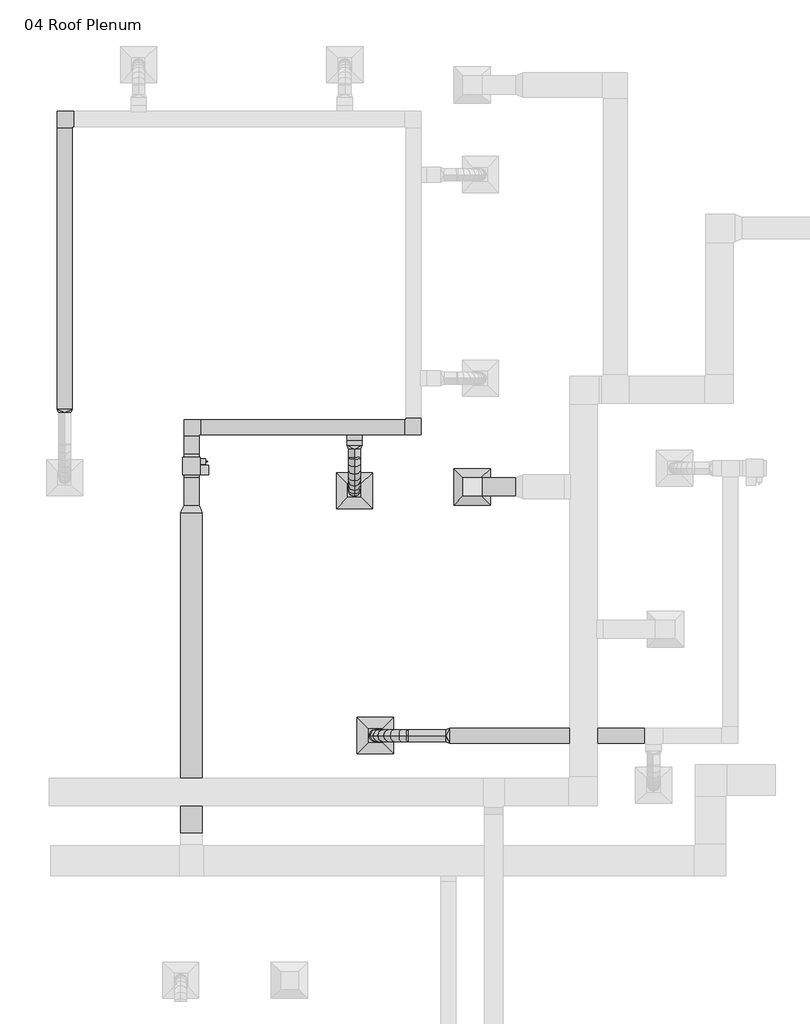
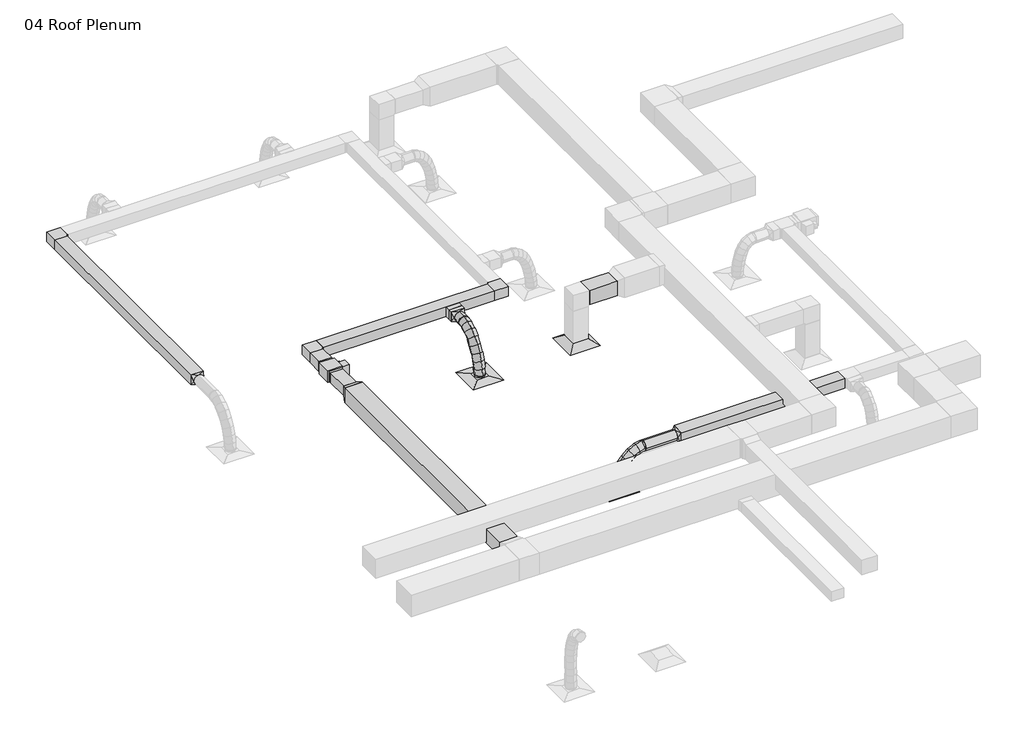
# One storey, part 3 of 9: 12 duct segments, 8 duct fittings, 3 air terminals, 1 proxy.
"""IFC4 building model written with IfcOpenShell, lengths in millimetres."""

from ifc_helpers import new_model, si_unit, point, frame, frame_2d, origin, place, context, project, spatial, polyline, circle_curve, ellipse_curve, trimmed, segment, composite_curve, outline, extrude, transform, mapped, element, save
from ifc_brep_helpers import plane_surface, cylinder_surface, advanced_brep
from components import return_diffuser_d30_returndiffuser_24x24_12x12_connection_ff543d60, supply_diffuser_rectangular_face_round_neck_d30_6390248a, bcn6785_vav_d30_vav1_8c327968, rectangular_elbow_mitered_standard_f09b78ec, rectangular_takeoff_standard_c54ab2d1, rectangular_transition_angle_45_degree_183635ce, rectangular_to_round_transition_angle_45_degree_e9430680

model = new_model("IFC4")

# Units and contexts
model_context = context("Model", 3, world=origin())
ifc_project = project(units=[si_unit("LENGTHUNIT", "METRE", prefix="MILLI")], contexts=[model_context])

# Site, building, storey
site = spatial("IfcSite", under=ifc_project)
building = spatial("IfcBuilding", under=site)
storey = spatial("IfcBuildingStorey", under=building, Name="04 Roof Plenum", Elevation=12192.0)

# Air terminals
placement = place(None, origin())
return_diffuser_d30_returndiffuser_24x24_12x12_connection_shape = return_diffuser_d30_returndiffuser_24x24_12x12_connection_ff543d60(model_context)
element("IfcAirTerminal", 1, ObjectType="Return Diffuser : D30_ReturnDiffuser_24x24 12x12 Connection", at=placement, inside=storey, context=model_context, shape_type="MappedRepresentation", body=[
    mapped(return_diffuser_d30_returndiffuser_24x24_12x12_connection_shape, transform((-9849.7375216, 4928.6505887, 12192.0), x_axis=(1.0, 0.0, 0.0), y_axis=(0.0, 1.0, 0.0), z_axis=(0.0, 0.0, 1.0))),
])
supply_diffuser_rectangular_face_round_neck_d30_shape = supply_diffuser_rectangular_face_round_neck_d30_6390248a(model_context)
element("IfcAirTerminal", 2, ObjectType="Supply Diffuser - Rectangular Face Round Neck : D30_SupplyDiffuser_24x24 8 Neck", at=placement, inside=storey, context=model_context, shape_type="MappedRepresentation", body=[
    mapped(supply_diffuser_rectangular_face_round_neck_d30_shape, transform((-11479.934212, 747.3140793, 12192.0), x_axis=(1.0, 0.0, 0.0), y_axis=(0.0, 1.0, 0.0), z_axis=(0.0, 0.0, 1.0))),
])
element("IfcAirTerminal", 3, ObjectType="Supply Diffuser - Rectangular Face Round Neck : D30_SupplyDiffuser_24x24 8 Neck", at=placement, inside=storey, context=model_context, shape_type="MappedRepresentation", body=[
    mapped(supply_diffuser_rectangular_face_round_neck_d30_shape, transform((-11828.9071895, 4864.6921675, 12192.0), x_axis=(1.0, 0.0, 0.0), y_axis=(0.0, 1.0, 0.0), z_axis=(0.0, 0.0, 1.0))),
])

# Proxy
bcn6785_vav_d30_vav1_shape = bcn6785_vav_d30_vav1_8c327968(model_context)
element("IfcBuildingElementProxy", 4, Name="BCN6785_VAV : D30_VAV1", ObjectType="BCN6785_VAV : D30_VAV1", at=placement, inside=storey, context=model_context, shape_type="MappedRepresentation", body=[
    mapped(bcn6785_vav_d30_vav1_shape, transform((-14571.5723705, 5131.3921675, 12909.55), x_axis=(0.0, 1.0, 0.0), y_axis=(-1.0, 0.0, 0.0), z_axis=(0.0, 0.0, 1.0))),
])

# Duct fittings
rectangular_elbow_mitered_standard_shape = rectangular_elbow_mitered_standard_f09b78ec(model_context)
element("IfcDuctFitting", 5, ObjectType="Rectangular Elbow - Mitered : Standard", at=placement, inside=storey, context=model_context, shape_type="MappedRepresentation", body=[
    mapped(rectangular_elbow_mitered_standard_shape, transform((-14571.5723705, 5931.4921675, 13030.2), x_axis=(-1.0, 0.0, 0.0), y_axis=(0.0, -1.0, 0.0), z_axis=(0.0, 0.0, 1.0))),
])
element("IfcDuctFitting", 6, ObjectType="Rectangular Elbow - Mitered : Standard", at=placement, inside=storey, context=model_context, shape_type="MappedRepresentation", body=[
    mapped(rectangular_elbow_mitered_standard_shape, transform((-10837.7723705, 5931.4921675, 13030.2), x_axis=(1.0, 0.0, 0.0), y_axis=(0.0, 1.0, 0.0), z_axis=(0.0, 0.0, 1.0))),
])
element("IfcDuctFitting", 7, ObjectType="Rectangular Elbow - Mitered : Standard", at=placement, inside=storey, context=model_context, shape_type="MappedRepresentation", body=[
    mapped(rectangular_elbow_mitered_standard_shape, transform((-16705.1723705, 11113.0921675, 13030.2), x_axis=(-1.0, 0.0, 0.0), y_axis=(0.0, -1.0, 0.0), z_axis=(0.0, 0.0, 1.0))),
])
rectangular_takeoff_standard_shape = rectangular_takeoff_standard_c54ab2d1(model_context)
element("IfcDuctFitting", 8, ObjectType="Rectangular Takeoff : Standard", at=placement, inside=storey, context=model_context, shape_type="MappedRepresentation", body=[
    mapped(rectangular_takeoff_standard_shape, transform((-11828.9071895, 5804.4921675, 13030.2), x_axis=(0.0, -1.0, 0.0), y_axis=(-1.0, 0.0, 0.0), z_axis=(0.0, 0.0, -1.0))),
])
rectangular_transition_angle_45_degree_shape = rectangular_transition_angle_45_degree_183635ce(model_context)
element("IfcDuctFitting", 9, ObjectType="Rectangular Transition - Angle : 45 Degree", at=placement, inside=storey, context=model_context, shape_type="MappedRepresentation", body=[
    mapped(rectangular_transition_angle_45_degree_shape, transform((-14571.5723705, 4497.4809317, 13030.2), x_axis=(0.0, 1.0, 0.0), y_axis=(-1.0, 0.0, 0.0), z_axis=(0.0, 0.0, 1.0))),
])
rectangular_to_round_transition_angle_45_degree_shape = rectangular_to_round_transition_angle_45_degree_e9430680(model_context)
element("IfcDuctFitting", 10, ObjectType="Rectangular to Round Transition - Angle : 45 Degree", at=placement, inside=storey, context=model_context, shape_type="MappedRepresentation", body=[
    mapped(rectangular_to_round_transition_angle_45_degree_shape, transform((-10232.3178172, 747.3140793, 12903.2), x_axis=(-1.0, 0.0, 0.0), y_axis=(0.0, -1.0, 0.0), z_axis=(0.0, 0.0, 1.0))),
])
element("IfcDuctFitting", 11, ObjectType="Rectangular to Round Transition - Angle : 45 Degree", at=placement, inside=storey, context=model_context, shape_type="MappedRepresentation", body=[
    mapped(rectangular_to_round_transition_angle_45_degree_shape, transform((-11828.9071895, 5626.6921675, 13030.2), x_axis=(0.0, -1.0, 0.0), y_axis=(1.0, 0.0, 0.0), z_axis=(0.0, 0.0, 1.0))),
])
element("IfcDuctFitting", 12, ObjectType="Rectangular to Round Transition - Angle : 45 Degree", at=placement, inside=storey, context=model_context, shape_type="MappedRepresentation", body=[
    mapped(rectangular_to_round_transition_angle_45_degree_shape, transform((-16705.1723705, 6236.2921675, 13030.2), x_axis=(0.0, -1.0, 0.0), y_axis=(1.0, 0.0, 0.0), z_axis=(0.0, 0.0, 1.0))),
])

# Duct segments
element("IfcDuctSegment", 13, ObjectType="Flex - Round", at=placement, inside=storey, context=model_context, shape_type="AdvancedBrep", body=[
    advanced_brep(
    [(-10928.6388417, 645.7140793, 12903.2), (-10928.6388417, 747.3140793, 12801.6), (-10928.6388417, 848.9140793, 12903.2), (-10928.6388417, 747.3140793, 13004.8), (-10946.3941775, 645.7140793, 12903.2), (-10935.9328341, 747.3140793, 12801.6), (-10946.3941775, 848.9140793, 12903.2), (-10956.855521, 747.3140793, 13004.8), (-11479.934212, 645.7140793, 12245.975), (-11581.534212, 747.3140793, 12245.975), (-11479.934212, 848.9140793, 12245.975), (-11378.334212, 747.3140793, 12245.975), (-11049.2116422, 645.7140793, 12881.7997126), (-11014.879517, 747.3140793, 12785.1681447), (-11049.2116422, 848.9140793, 12881.7997126), (-11083.5437673, 747.3140793, 12978.4312805), (-11162.9815687, 645.7140793, 12822.9238719), (-11105.7246373, 747.3140793, 12738.1558719), (-11162.9815687, 848.9140793, 12822.9238719), (-11220.2385001, 747.3140793, 12907.691872), (-11265.6670818, 645.7140793, 12734.5600103), (-11192.1102582, 747.3140793, 12663.8185401), (-11265.6670818, 848.9140793, 12734.5600103), (-11339.2239055, 747.3140793, 12805.3014805), (-11352.9866422, 645.7140793, 12624.69566), (-11268.0665718, 747.3140793, 12568.251281), (-11352.9866422, 848.9140793, 12624.69566), (-11437.9067125, 747.3140793, 12681.140039), (-11420.6587102, 645.7140793, 12501.3183533), (-11327.3039744, 747.3140793, 12460.2517563), (-11420.6587102, 848.9140793, 12501.3183533), (-11514.0134461, 747.3140793, 12542.3849503), (-11464.4017467, 645.7140793, 12372.4156226), (-11365.0498601, 747.3140793, 12349.0215322), (-11464.4017467, 848.9140793, 12372.4156226), (-11563.7536332, 747.3140793, 12395.8097129), (-11479.934212, 645.7140793, 12258.3628251), (-11378.334212, 747.3140793, 12251.4763286), (-11479.934212, 848.9140793, 12258.3628251), (-11581.534212, 747.3140793, 12265.2493216)],
    [
        (0, 1, circle_curve(frame((-10928.6388417, 747.3140793, 12903.2), z_axis=(1.0, 0.0, 0.0), x_axis=(0.0, -1.0, 0.0)), 101.6)),
        (1, 2, circle_curve(frame((-10928.6388417, 747.3140793, 12903.2), z_axis=(1.0, 0.0, 0.0), x_axis=(0.0, -1.0, 0.0)), 101.6)),
        (2, 3, circle_curve(frame((-10928.6388417, 747.3140793, 12903.2), z_axis=(1.0, 0.0, 0.0), x_axis=(0.0, -1.0, 0.0)), 101.6)),
        (3, 0, circle_curve(frame((-10928.6388417, 747.3140793, 12903.2), z_axis=(1.0, 0.0, 0.0), x_axis=(0.0, -1.0, 0.0)), 101.6)),
        (0, 4),
        (4, 5, ellipse_curve(frame((-10946.3941775, 747.3140793, 12903.2), z_axis=(0.9947407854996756, 0.0, 0.10242445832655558), x_axis=(0.10242445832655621, 0.0, -0.9947407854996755)), 102.1371612, 101.6)),
        (5, 1),
        (5, 6, ellipse_curve(frame((-10946.3941775, 747.3140793, 12903.2), z_axis=(0.9947407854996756, 0.0, 0.10242445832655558), x_axis=(0.10242445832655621, 0.0, -0.9947407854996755)), 102.1371612, 101.6)),
        (6, 2),
        (6, 7, ellipse_curve(frame((-10946.3941775, 747.3140793, 12903.2), z_axis=(0.9947407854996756, 0.0, 0.10242445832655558), x_axis=(0.10242445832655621, 0.0, -0.9947407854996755)), 102.1371612, 101.6)),
        (7, 3),
        (7, 4, ellipse_curve(frame((-10946.3941775, 747.3140793, 12903.2), z_axis=(0.9947407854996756, 0.0, 0.10242445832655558), x_axis=(0.10242445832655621, 0.0, -0.9947407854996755)), 102.1371612, 101.6)),
        (8, 9, circle_curve(frame((-11479.934212, 747.3140793, 12245.975), z_axis=(0.0, 0.0, -1.0), x_axis=(0.0, -1.0, 0.0)), 101.6)),
        (9, 10, circle_curve(frame((-11479.934212, 747.3140793, 12245.975), z_axis=(0.0, 0.0, -1.0), x_axis=(0.0, -1.0, 0.0)), 101.6)),
        (10, 11, circle_curve(frame((-11479.934212, 747.3140793, 12245.975), z_axis=(0.0, 0.0, -1.0), x_axis=(0.0, -1.0, 0.0)), 101.6)),
        (11, 8, circle_curve(frame((-11479.934212, 747.3140793, 12245.975), z_axis=(0.0, 0.0, -1.0), x_axis=(0.0, -1.0, 0.0)), 101.6)),
        (4, 12),
        (12, 13, ellipse_curve(frame((-11049.2116422, 747.3140793, 12881.7997126), z_axis=(0.9422939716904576, 0.0, 0.3347866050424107), x_axis=(0.33478660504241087, 0.0, -0.9422939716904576)), 102.5492796, 101.6)),
        (13, 5),
        (13, 14, ellipse_curve(frame((-11049.2116422, 747.3140793, 12881.7997126), z_axis=(0.9422939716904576, 0.0, 0.3347866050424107), x_axis=(0.33478660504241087, 0.0, -0.9422939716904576)), 102.5492796, 101.6)),
        (14, 6),
        (14, 15, ellipse_curve(frame((-11049.2116422, 747.3140793, 12881.7997126), z_axis=(0.9422939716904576, 0.0, 0.3347866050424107), x_axis=(0.33478660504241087, 0.0, -0.9422939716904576)), 102.5492796, 101.6)),
        (15, 7),
        (15, 12, ellipse_curve(frame((-11049.2116422, 747.3140793, 12881.7997126), z_axis=(0.9422939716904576, 0.0, 0.3347866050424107), x_axis=(0.33478660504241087, 0.0, -0.9422939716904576)), 102.5492796, 101.6)),
        (12, 16),
        (16, 17, ellipse_curve(frame((-11162.9815687, 747.3140793, 12822.9238719), z_axis=(0.8286739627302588, 0.0, 0.5597315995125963), x_axis=(0.559731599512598, 0.0, -0.8286739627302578)), 102.2935484, 101.6)),
        (17, 13),
        (17, 18, ellipse_curve(frame((-11162.9815687, 747.3140793, 12822.9238719), z_axis=(0.8286739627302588, 0.0, 0.5597315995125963), x_axis=(0.559731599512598, 0.0, -0.8286739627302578)), 102.2935484, 101.6)),
        (18, 14),
        (18, 19, ellipse_curve(frame((-11162.9815687, 747.3140793, 12822.9238719), z_axis=(0.8286739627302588, 0.0, 0.5597315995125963), x_axis=(0.559731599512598, 0.0, -0.8286739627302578)), 102.2935484, 101.6)),
        (19, 15),
        (19, 16, ellipse_curve(frame((-11162.9815687, 747.3140793, 12822.9238719), z_axis=(0.8286739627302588, 0.0, 0.5597315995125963), x_axis=(0.559731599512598, 0.0, -0.8286739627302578)), 102.2935484, 101.6)),
        (16, 20),
        (20, 21, ellipse_curve(frame((-11265.6670818, 747.3140793, 12734.5600103), z_axis=(0.6931787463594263, 0.0, 0.7207657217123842), x_axis=(0.7207657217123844, 0.0, -0.6931787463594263)), 102.0537207, 101.6)),
        (21, 17),
        (21, 22, ellipse_curve(frame((-11265.6670818, 747.3140793, 12734.5600103), z_axis=(0.6931787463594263, 0.0, 0.7207657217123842), x_axis=(0.7207657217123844, 0.0, -0.6931787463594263)), 102.0537207, 101.6)),
        (22, 18),
        (22, 23, ellipse_curve(frame((-11265.6670818, 747.3140793, 12734.5600103), z_axis=(0.6931787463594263, 0.0, 0.7207657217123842), x_axis=(0.7207657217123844, 0.0, -0.6931787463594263)), 102.0537207, 101.6)),
        (23, 19),
        (23, 20, ellipse_curve(frame((-11265.6670818, 747.3140793, 12734.5600103), z_axis=(0.6931787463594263, 0.0, 0.7207657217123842), x_axis=(0.7207657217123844, 0.0, -0.6931787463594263)), 102.0537207, 101.6)),
        (20, 24),
        (24, 25, ellipse_curve(frame((-11352.9866422, 747.3140793, 12624.69566), z_axis=(0.5535522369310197, 0.0, 0.8328144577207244), x_axis=(0.8328144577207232, 0.0, -0.5535522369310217)), 101.9675746, 101.6)),
        (25, 21),
        (25, 26, ellipse_curve(frame((-11352.9866422, 747.3140793, 12624.69566), z_axis=(0.5535522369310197, 0.0, 0.8328144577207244), x_axis=(0.8328144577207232, 0.0, -0.5535522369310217)), 101.9675746, 101.6)),
        (26, 22),
        (26, 27, ellipse_curve(frame((-11352.9866422, 747.3140793, 12624.69566), z_axis=(0.5535522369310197, 0.0, 0.8328144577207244), x_axis=(0.8328144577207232, 0.0, -0.5535522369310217)), 101.9675746, 101.6)),
        (27, 23),
        (27, 24, ellipse_curve(frame((-11352.9866422, 747.3140793, 12624.69566), z_axis=(0.5535522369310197, 0.0, 0.8328144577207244), x_axis=(0.8328144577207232, 0.0, -0.5535522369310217)), 101.9675746, 101.6)),
        (24, 28),
        (28, 29, ellipse_curve(frame((-11420.6587102, 747.3140793, 12501.3183533), z_axis=(0.40266068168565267, 0.0, 0.9153493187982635), x_axis=(0.9153493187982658, 0.0, -0.402660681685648)), 101.9880978, 101.6)),
        (29, 25),
        (29, 30, ellipse_curve(frame((-11420.6587102, 747.3140793, 12501.3183533), z_axis=(0.40266068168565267, 0.0, 0.9153493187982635), x_axis=(0.9153493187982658, 0.0, -0.402660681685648)), 101.9880978, 101.6)),
        (30, 26),
        (30, 31, ellipse_curve(frame((-11420.6587102, 747.3140793, 12501.3183533), z_axis=(0.40266068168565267, 0.0, 0.9153493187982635), x_axis=(0.9153493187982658, 0.0, -0.402660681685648)), 101.9880978, 101.6)),
        (31, 27),
        (31, 28, ellipse_curve(frame((-11420.6587102, 747.3140793, 12501.3183533), z_axis=(0.40266068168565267, 0.0, 0.9153493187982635), x_axis=(0.9153493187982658, 0.0, -0.402660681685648)), 101.9880978, 101.6)),
        (28, 32),
        (32, 33, ellipse_curve(frame((-11464.4017467, 747.3140793, 12372.4156226), z_axis=(0.2291987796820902, 0.0, 0.9733796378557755), x_axis=(0.9733796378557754, 0.0, -0.229198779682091)), 102.0690003, 101.6)),
        (33, 29),
        (33, 34, ellipse_curve(frame((-11464.4017467, 747.3140793, 12372.4156226), z_axis=(0.2291987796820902, 0.0, 0.9733796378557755), x_axis=(0.9733796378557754, 0.0, -0.229198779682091)), 102.0690003, 101.6)),
        (34, 30),
        (34, 35, ellipse_curve(frame((-11464.4017467, 747.3140793, 12372.4156226), z_axis=(0.2291987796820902, 0.0, 0.9733796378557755), x_axis=(0.9733796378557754, 0.0, -0.229198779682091)), 102.0690003, 101.6)),
        (35, 31),
        (35, 32, ellipse_curve(frame((-11464.4017467, 747.3140793, 12372.4156226), z_axis=(0.2291987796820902, 0.0, 0.9733796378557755), x_axis=(0.9733796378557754, 0.0, -0.229198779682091)), 102.0690003, 101.6)),
        (32, 36),
        (36, 37, ellipse_curve(frame((-11479.934212, 747.3140793, 12258.3628251), z_axis=(0.0676253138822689, 0.0, 0.997710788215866), x_axis=(0.9977107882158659, 0.0, -0.06762531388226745)), 101.8331176, 101.6)),
        (37, 33),
        (37, 38, ellipse_curve(frame((-11479.934212, 747.3140793, 12258.3628251), z_axis=(0.0676253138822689, 0.0, 0.997710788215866), x_axis=(0.9977107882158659, 0.0, -0.06762531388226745)), 101.8331176, 101.6)),
        (38, 34),
        (38, 39, ellipse_curve(frame((-11479.934212, 747.3140793, 12258.3628251), z_axis=(0.0676253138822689, 0.0, 0.997710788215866), x_axis=(0.9977107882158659, 0.0, -0.06762531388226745)), 101.8331176, 101.6)),
        (39, 35),
        (39, 36, ellipse_curve(frame((-11479.934212, 747.3140793, 12258.3628251), z_axis=(0.0676253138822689, 0.0, 0.997710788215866), x_axis=(0.9977107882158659, 0.0, -0.06762531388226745)), 101.8331176, 101.6)),
        (36, 8),
        (11, 37),
        (10, 38),
        (9, 39),
    ],
    [
        plane_surface(frame((-10928.6388417, 747.3140793, 12801.6), z_axis=(1.0, 0.0, 0.0), x_axis=(0.0, -1.0, 0.0))),
        cylinder_surface(frame((-10928.6388417, 747.3140793, 12903.2), z_axis=(1.0, 0.0, 0.0), x_axis=(0.0, -1.0, 0.0)), 101.6),
        plane_surface(frame((-11479.934212, 645.7140793, 12245.975), z_axis=(0.0, 0.0, -1.0), x_axis=(-1.0, 0.0, 0.0))),
        cylinder_surface(frame((-10946.3941775, 747.3140793, 12903.2), z_axis=(0.9790184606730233, 0.0, 0.2037715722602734), x_axis=(0.0, -1.0, 0.0)), 101.6),
        cylinder_surface(frame((-11049.2116422, 747.3140793, 12881.7997126), z_axis=(0.888124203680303, 0.0, 0.4596035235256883), x_axis=(0.0, -1.0, 0.0)), 101.6),
        cylinder_surface(frame((-11162.9815687, 747.3140793, 12822.9238719), z_axis=(0.7579869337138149, 0.0, 0.6522697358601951), x_axis=(0.0, -1.0, 0.0)), 101.6),
        cylinder_surface(frame((-11265.6670818, 747.3140793, 12734.5600103), z_axis=(0.6222069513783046, 0.0, 0.7828528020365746), x_axis=(0.0, -1.0, 0.0)), 101.6),
        cylinder_surface(frame((-11352.9866422, 747.3140793, 12624.69566), z_axis=(0.4809066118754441, 0.0, 0.8767718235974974), x_axis=(0.0, -1.0, 0.0)), 101.6),
        cylinder_surface(frame((-11420.6587102, 747.3140793, 12501.3183533), z_axis=(0.3213502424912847, 0.0, 0.9469604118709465), x_axis=(0.0, -1.0, 0.0)), 101.6),
        cylinder_surface(frame((-11464.4017467, 747.3140793, 12372.4156226), z_axis=(0.13494101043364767, 0.0, 0.9908536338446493), x_axis=(0.0, -1.0, 0.0)), 101.6),
        cylinder_surface(frame((-11479.934212, 747.3140793, 12258.3628251), z_axis=(0.0, 0.0, 1.0), x_axis=(0.0, -1.0, 0.0)), 101.6),
    ],
    [
        (0, [[1, 2, 3, 4]]),
        (1, [[-1, 5, 6, 7]]),
        (1, [[-2, -7, 8, 9]]),
        (1, [[-3, -9, 10, 11]]),
        (1, [[-4, -11, 12, -5]]),
        (2, [[13, 14, 15, 16]]),
        (3, [[-6, 17, 18, 19]]),
        (3, [[-8, -19, 20, 21]]),
        (3, [[-10, -21, 22, 23]]),
        (3, [[-12, -23, 24, -17]]),
        (4, [[-18, 25, 26, 27]]),
        (4, [[-20, -27, 28, 29]]),
        (4, [[-22, -29, 30, 31]]),
        (4, [[-24, -31, 32, -25]]),
        (5, [[-26, 33, 34, 35]]),
        (5, [[-28, -35, 36, 37]]),
        (5, [[-30, -37, 38, 39]]),
        (5, [[-32, -39, 40, -33]]),
        (6, [[-34, 41, 42, 43]]),
        (6, [[-36, -43, 44, 45]]),
        (6, [[-38, -45, 46, 47]]),
        (6, [[-40, -47, 48, -41]]),
        (7, [[-42, 49, 50, 51]]),
        (7, [[-44, -51, 52, 53]]),
        (7, [[-46, -53, 54, 55]]),
        (7, [[-48, -55, 56, -49]]),
        (8, [[-50, 57, 58, 59]]),
        (8, [[-52, -59, 60, 61]]),
        (8, [[-54, -61, 62, 63]]),
        (8, [[-56, -63, 64, -57]]),
        (9, [[-58, 65, 66, 67]]),
        (9, [[-60, -67, 68, 69]]),
        (9, [[-62, -69, 70, 71]]),
        (9, [[-64, -71, 72, -65]]),
        (10, [[-66, 73, -16, 74]]),
        (10, [[-68, -74, -15, 75]]),
        (10, [[-70, -75, -14, 76]]),
        (10, [[-72, -76, -13, -73]]),
    ],
),
])
element("IfcDuctSegment", 14, ObjectType="Flex - Round", at=placement, inside=storey, context=model_context, shape_type="AdvancedBrep", body=[
    advanced_brep(
    [(-11727.3071895, 5423.4921675, 13030.2), (-11828.9071895, 5423.4921675, 12928.6), (-11930.5071895, 5423.4921675, 13030.2), (-11828.9071895, 5423.4921675, 13131.8), (-11727.3071895, 5405.8091377, 13030.2), (-11828.9071895, 5416.287151, 12928.6), (-11930.5071895, 5405.8091377, 13030.2), (-11828.9071895, 5395.3311245, 13131.8), (-11727.3071895, 4864.6921675, 12245.975), (-11828.9071895, 4763.0921675, 12245.975), (-11930.5071895, 4864.6921675, 12245.975), (-11828.9071895, 4966.2921675, 12245.975), (-11727.3071895, 5307.3242244, 13009.6681185), (-11828.9071895, 5342.3129637, 12913.1780517), (-11930.5071895, 5307.3242244, 13009.6681185), (-11828.9071895, 5272.3354851, 13106.1581854), (-11727.3071895, 5200.7652919, 12952.8029689), (-11828.9071895, 5259.652247, 12869.0661794), (-11930.5071895, 5200.7652919, 12952.8029689), (-11828.9071895, 5141.8783369, 13036.5397585), (-11727.3071895, 5105.6277138, 12866.7002933), (-11828.9071895, 5180.8851522, 12797.7793362), (-11930.5071895, 5105.6277138, 12866.7002933), (-11828.9071895, 5030.3702754, 12935.6212504), (-11727.3071895, 5023.7238336, 12758.4558338), (-11828.9071895, 5109.3769705, 12703.2738688), (-11930.5071895, 5023.7238336, 12758.4558338), (-11828.9071895, 4938.0706968, 12813.6377988), (-11727.3071895, 4956.8659952, 12635.1653326), (-11828.9071895, 5049.4021789, 12592.6761843), (-11930.5071895, 4956.8659952, 12635.1653326), (-11828.9071895, 4864.3298116, 12677.6544809), (-11727.3071895, 4906.8665423, 12503.9245318), (-11828.9071895, 5004.1848054, 12473.9875996), (-11930.5071895, 4906.8665423, 12503.9245318), (-11828.9071895, 4809.5482792, 12533.861464), (-11727.3071895, 4875.5378185, 12371.8291736), (-11828.9071895, 4976.045744, 12355.3412283), (-11930.5071895, 4875.5378185, 12371.8291736), (-11828.9071895, 4775.0298929, 12388.3171188), (-11727.3071895, 4864.6921675, 12254.6981844), (-11828.9071895, 4966.2921675, 12250.004438), (-11930.5071895, 4864.6921675, 12254.6981844), (-11828.9071895, 4763.0921675, 12259.3919309)],
    [
        (0, 1, circle_curve(frame((-11828.9071895, 5423.4921675, 13030.2), z_axis=(0.0, 1.0, 0.0), x_axis=(1.0, 0.0, 0.0)), 101.6)),
        (1, 2, circle_curve(frame((-11828.9071895, 5423.4921675, 13030.2), z_axis=(0.0, 1.0, 0.0), x_axis=(1.0, 0.0, 0.0)), 101.6)),
        (2, 3, circle_curve(frame((-11828.9071895, 5423.4921675, 13030.2), z_axis=(0.0, 1.0, 0.0), x_axis=(1.0, 0.0, 0.0)), 101.6)),
        (3, 0, circle_curve(frame((-11828.9071895, 5423.4921675, 13030.2), z_axis=(0.0, 1.0, 0.0), x_axis=(1.0, 0.0, 0.0)), 101.6)),
        (0, 4),
        (4, 5, ellipse_curve(frame((-11828.9071895, 5405.8091377, 13030.2), z_axis=(0.0, 0.9947241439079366, 0.10258595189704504), x_axis=(0.0, 0.1025859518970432, -0.9947241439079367)), 102.13887, 101.6)),
        (5, 1),
        (5, 6, ellipse_curve(frame((-11828.9071895, 5405.8091377, 13030.2), z_axis=(0.0, 0.9947241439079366, 0.10258595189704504), x_axis=(0.0, 0.1025859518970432, -0.9947241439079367)), 102.13887, 101.6)),
        (6, 2),
        (6, 7, ellipse_curve(frame((-11828.9071895, 5405.8091377, 13030.2), z_axis=(0.0, 0.9947241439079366, 0.10258595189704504), x_axis=(0.0, 0.1025859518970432, -0.9947241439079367)), 102.13887, 101.6)),
        (7, 3),
        (7, 4, ellipse_curve(frame((-11828.9071895, 5405.8091377, 13030.2), z_axis=(0.0, 0.9947241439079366, 0.10258595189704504), x_axis=(0.0, 0.1025859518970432, -0.9947241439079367)), 102.13887, 101.6)),
        (8, 9, circle_curve(frame((-11828.9071895, 4864.6921675, 12245.975), z_axis=(0.0, 0.0, -1.0), x_axis=(1.0, 0.0, 0.0)), 101.6)),
        (9, 10, circle_curve(frame((-11828.9071895, 4864.6921675, 12245.975), z_axis=(0.0, 0.0, -1.0), x_axis=(1.0, 0.0, 0.0)), 101.6)),
        (10, 11, circle_curve(frame((-11828.9071895, 4864.6921675, 12245.975), z_axis=(0.0, 0.0, -1.0), x_axis=(1.0, 0.0, 0.0)), 101.6)),
        (11, 8, circle_curve(frame((-11828.9071895, 4864.6921675, 12245.975), z_axis=(0.0, 0.0, -1.0), x_axis=(1.0, 0.0, 0.0)), 101.6)),
        (4, 12),
        (12, 13, ellipse_curve(frame((-11828.9071895, 5307.3242244, 13009.6681185), z_axis=(0.0, 0.9401014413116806, 0.3408948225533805), x_axis=(0.0, 0.34089482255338, -0.9401014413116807)), 102.637931, 101.6)),
        (13, 5),
        (13, 14, ellipse_curve(frame((-11828.9071895, 5307.3242244, 13009.6681185), z_axis=(0.0, 0.9401014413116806, 0.3408948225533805), x_axis=(0.0, 0.34089482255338, -0.9401014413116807)), 102.637931, 101.6)),
        (14, 6),
        (14, 15, ellipse_curve(frame((-11828.9071895, 5307.3242244, 13009.6681185), z_axis=(0.0, 0.9401014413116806, 0.3408948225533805), x_axis=(0.0, 0.34089482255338, -0.9401014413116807)), 102.637931, 101.6)),
        (15, 7),
        (15, 12, ellipse_curve(frame((-11828.9071895, 5307.3242244, 13009.6681185), z_axis=(0.0, 0.9401014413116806, 0.3408948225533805), x_axis=(0.0, 0.34089482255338, -0.9401014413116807)), 102.637931, 101.6)),
        (12, 16),
        (16, 17, ellipse_curve(frame((-11828.9071895, 5200.7652919, 12952.8029689), z_axis=(0.0, 0.8179853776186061, 0.5752390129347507), x_axis=(0.0, 0.5752390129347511, -0.8179853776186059)), 102.3695433, 101.6)),
        (17, 13),
        (17, 18, ellipse_curve(frame((-11828.9071895, 5200.7652919, 12952.8029689), z_axis=(0.0, 0.8179853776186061, 0.5752390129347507), x_axis=(0.0, 0.5752390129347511, -0.8179853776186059)), 102.3695433, 101.6)),
        (18, 14),
        (18, 19, ellipse_curve(frame((-11828.9071895, 5200.7652919, 12952.8029689), z_axis=(0.0, 0.8179853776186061, 0.5752390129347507), x_axis=(0.0, 0.5752390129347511, -0.8179853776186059)), 102.3695433, 101.6)),
        (19, 15),
        (19, 16, ellipse_curve(frame((-11828.9071895, 5200.7652919, 12952.8029689), z_axis=(0.0, 0.8179853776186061, 0.5752390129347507), x_axis=(0.0, 0.5752390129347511, -0.8179853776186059)), 102.3695433, 101.6)),
        (16, 20),
        (20, 21, ellipse_curve(frame((-11828.9071895, 5105.6277138, 12866.7002933), z_axis=(0.0, 0.6753782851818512, 0.7374714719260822), x_axis=(0.0, 0.7374714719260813, -0.6753782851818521)), 102.0479317, 101.6)),
        (21, 17),
        (21, 22, ellipse_curve(frame((-11828.9071895, 5105.6277138, 12866.7002933), z_axis=(0.0, 0.6753782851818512, 0.7374714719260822), x_axis=(0.0, 0.7374714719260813, -0.6753782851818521)), 102.0479317, 101.6)),
        (22, 18),
        (22, 23, ellipse_curve(frame((-11828.9071895, 5105.6277138, 12866.7002933), z_axis=(0.0, 0.6753782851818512, 0.7374714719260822), x_axis=(0.0, 0.7374714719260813, -0.6753782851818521)), 102.0479317, 101.6)),
        (23, 19),
        (23, 20, ellipse_curve(frame((-11828.9071895, 5105.6277138, 12866.7002933), z_axis=(0.0, 0.6753782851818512, 0.7374714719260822), x_axis=(0.0, 0.7374714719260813, -0.6753782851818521)), 102.0479317, 101.6)),
        (20, 24),
        (24, 25, ellipse_curve(frame((-11828.9071895, 5023.7238336, 12758.4558338), z_axis=(0.0, 0.5415853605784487, 0.8406457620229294), x_axis=(0.0, 0.8406457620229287, -0.5415853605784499)), 101.8896909, 101.6)),
        (25, 21),
        (25, 26, ellipse_curve(frame((-11828.9071895, 5023.7238336, 12758.4558338), z_axis=(0.0, 0.5415853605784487, 0.8406457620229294), x_axis=(0.0, 0.8406457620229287, -0.5415853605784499)), 101.8896909, 101.6)),
        (26, 22),
        (26, 27, ellipse_curve(frame((-11828.9071895, 5023.7238336, 12758.4558338), z_axis=(0.0, 0.5415853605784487, 0.8406457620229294), x_axis=(0.0, 0.8406457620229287, -0.5415853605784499)), 101.8896909, 101.6)),
        (27, 23),
        (27, 24, ellipse_curve(frame((-11828.9071895, 5023.7238336, 12758.4558338), z_axis=(0.0, 0.5415853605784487, 0.8406457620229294), x_axis=(0.0, 0.8406457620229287, -0.5415853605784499)), 101.8896909, 101.6)),
        (24, 28),
        (28, 29, ellipse_curve(frame((-11828.9071895, 4956.8659952, 12635.1653326), z_axis=(0.0, 0.41727735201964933, 0.9087791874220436), x_axis=(0.0, 0.9087791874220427, -0.41727735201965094)), 101.8247171, 101.6)),
        (29, 25),
        (29, 30, ellipse_curve(frame((-11828.9071895, 4956.8659952, 12635.1653326), z_axis=(0.0, 0.41727735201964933, 0.9087791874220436), x_axis=(0.0, 0.9087791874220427, -0.41727735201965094)), 101.8247171, 101.6)),
        (30, 26),
        (30, 31, ellipse_curve(frame((-11828.9071895, 4956.8659952, 12635.1653326), z_axis=(0.0, 0.41727735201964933, 0.9087791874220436), x_axis=(0.0, 0.9087791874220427, -0.41727735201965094)), 101.8247171, 101.6)),
        (31, 27),
        (31, 28, ellipse_curve(frame((-11828.9071895, 4956.8659952, 12635.1653326), z_axis=(0.0, 0.41727735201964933, 0.9087791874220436), x_axis=(0.0, 0.9087791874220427, -0.41727735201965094)), 101.8247171, 101.6)),
        (28, 32),
        (32, 33, ellipse_curve(frame((-11828.9071895, 4906.8665423, 12503.9245318), z_axis=(0.0, 0.2940217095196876, 0.9557987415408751), x_axis=(0.0, 0.9557987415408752, -0.29402170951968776)), 101.8187814, 101.6)),
        (33, 29),
        (33, 34, ellipse_curve(frame((-11828.9071895, 4906.8665423, 12503.9245318), z_axis=(0.0, 0.2940217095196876, 0.9557987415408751), x_axis=(0.0, 0.9557987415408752, -0.29402170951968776)), 101.8187814, 101.6)),
        (34, 30),
        (34, 35, ellipse_curve(frame((-11828.9071895, 4906.8665423, 12503.9245318), z_axis=(0.0, 0.2940217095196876, 0.9557987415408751), x_axis=(0.0, 0.9557987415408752, -0.29402170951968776)), 101.8187814, 101.6)),
        (35, 31),
        (35, 32, ellipse_curve(frame((-11828.9071895, 4906.8665423, 12503.9245318), z_axis=(0.0, 0.2940217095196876, 0.9557987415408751), x_axis=(0.0, 0.9557987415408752, -0.29402170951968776)), 101.8187814, 101.6)),
        (32, 36),
        (36, 37, ellipse_curve(frame((-11828.9071895, 4875.5378185, 12371.8291736), z_axis=(0.0, 0.16188245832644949, 0.9868100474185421), x_axis=(0.0, 0.9868100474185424, -0.1618824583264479)), 101.8513399, 101.6)),
        (37, 33),
        (37, 38, ellipse_curve(frame((-11828.9071895, 4875.5378185, 12371.8291736), z_axis=(0.0, 0.16188245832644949, 0.9868100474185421), x_axis=(0.0, 0.9868100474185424, -0.1618824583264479)), 101.8513399, 101.6)),
        (38, 34),
        (38, 39, ellipse_curve(frame((-11828.9071895, 4875.5378185, 12371.8291736), z_axis=(0.0, 0.16188245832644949, 0.9868100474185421), x_axis=(0.0, 0.9868100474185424, -0.1618824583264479)), 101.8513399, 101.6)),
        (39, 35),
        (39, 36, ellipse_curve(frame((-11828.9071895, 4875.5378185, 12371.8291736), z_axis=(0.0, 0.16188245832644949, 0.9868100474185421), x_axis=(0.0, 0.9868100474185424, -0.1618824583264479)), 101.8513399, 101.6)),
        (36, 40),
        (40, 41, ellipse_curve(frame((-11828.9071895, 4864.6921675, 12254.6981844), z_axis=(0.0, 0.04614907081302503, 0.9989345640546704), x_axis=(0.0, 0.9989345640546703, -0.046149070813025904)), 101.7083637, 101.6)),
        (41, 37),
        (41, 42, ellipse_curve(frame((-11828.9071895, 4864.6921675, 12254.6981844), z_axis=(0.0, 0.04614907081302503, 0.9989345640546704), x_axis=(0.0, 0.9989345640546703, -0.046149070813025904)), 101.7083637, 101.6)),
        (42, 38),
        (42, 43, ellipse_curve(frame((-11828.9071895, 4864.6921675, 12254.6981844), z_axis=(0.0, 0.04614907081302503, 0.9989345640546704), x_axis=(0.0, 0.9989345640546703, -0.046149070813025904)), 101.7083637, 101.6)),
        (43, 39),
        (43, 40, ellipse_curve(frame((-11828.9071895, 4864.6921675, 12254.6981844), z_axis=(0.0, 0.04614907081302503, 0.9989345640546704), x_axis=(0.0, 0.9989345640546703, -0.046149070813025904)), 101.7083637, 101.6)),
        (40, 8),
        (11, 41),
        (10, 42),
        (9, 43),
    ],
    [
        plane_surface(frame((-11930.5071895, 5423.4921675, 13030.2), z_axis=(0.0, 1.0, 0.0), x_axis=(0.0, 0.0, -1.0))),
        cylinder_surface(frame((-11828.9071895, 5423.4921675, 13030.2), z_axis=(0.0, 1.0, 0.0), x_axis=(1.0, 0.0, 0.0)), 101.6),
        plane_surface(frame((-11828.9071895, 4763.0921675, 12245.975), z_axis=(0.0, 0.0, -1.0), x_axis=(-1.0, 0.0, 0.0))),
        cylinder_surface(frame((-11828.9071895, 5405.8091377, 13030.2), z_axis=(0.0, 0.9789522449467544, 0.20408944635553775), x_axis=(1.0, 0.0, 0.0)), 101.6),
        cylinder_surface(frame((-11828.9071895, 5307.3242244, 13009.6681185), z_axis=(0.0, 0.8822369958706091, 0.4708055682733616), x_axis=(1.0, 0.0, 0.0)), 101.6),
        cylinder_surface(frame((-11828.9071895, 5200.7652919, 12952.8029689), z_axis=(0.0, 0.7414356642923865, 0.6710239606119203), x_axis=(1.0, 0.0, 0.0)), 101.6),
        cylinder_surface(frame((-11828.9071895, 5105.6277138, 12866.7002933), z_axis=(0.0, 0.6033918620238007, 0.797444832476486), x_axis=(1.0, 0.0, 0.0)), 101.6),
        cylinder_surface(frame((-11828.9071895, 5023.7238336, 12758.4558338), z_axis=(0.0, 0.4766992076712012, 0.8790664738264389), x_axis=(1.0, 0.0, 0.0)), 101.6),
        cylinder_surface(frame((-11828.9071895, 4956.8659952, 12635.1653326), z_axis=(0.0, 0.35601371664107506, 0.9344807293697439), x_axis=(1.0, 0.0, 0.0)), 101.6),
        cylinder_surface(frame((-11828.9071895, 4906.8665423, 12503.9245318), z_axis=(0.0, 0.23076615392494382, 0.9730092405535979), x_axis=(1.0, 0.0, 0.0)), 101.6),
        cylinder_surface(frame((-11828.9071895, 4875.5378185, 12371.8291736), z_axis=(0.0, 0.09219980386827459, 0.9957405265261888), x_axis=(1.0, 0.0, 0.0)), 101.6),
        cylinder_surface(frame((-11828.9071895, 4864.6921675, 12254.6981844), z_axis=(0.0, 0.0, 1.0), x_axis=(1.0, 0.0, 0.0)), 101.6),
    ],
    [
        (0, [[1, 2, 3, 4]]),
        (1, [[-1, 5, 6, 7]]),
        (1, [[-2, -7, 8, 9]]),
        (1, [[-3, -9, 10, 11]]),
        (1, [[-4, -11, 12, -5]]),
        (2, [[13, 14, 15, 16]]),
        (3, [[-6, 17, 18, 19]]),
        (3, [[-8, -19, 20, 21]]),
        (3, [[-10, -21, 22, 23]]),
        (3, [[-12, -23, 24, -17]]),
        (4, [[-18, 25, 26, 27]]),
        (4, [[-20, -27, 28, 29]]),
        (4, [[-22, -29, 30, 31]]),
        (4, [[-24, -31, 32, -25]]),
        (5, [[-26, 33, 34, 35]]),
        (5, [[-28, -35, 36, 37]]),
        (5, [[-30, -37, 38, 39]]),
        (5, [[-32, -39, 40, -33]]),
        (6, [[-34, 41, 42, 43]]),
        (6, [[-36, -43, 44, 45]]),
        (6, [[-38, -45, 46, 47]]),
        (6, [[-40, -47, 48, -41]]),
        (7, [[-42, 49, 50, 51]]),
        (7, [[-44, -51, 52, 53]]),
        (7, [[-46, -53, 54, 55]]),
        (7, [[-48, -55, 56, -49]]),
        (8, [[-50, 57, 58, 59]]),
        (8, [[-52, -59, 60, 61]]),
        (8, [[-54, -61, 62, 63]]),
        (8, [[-56, -63, 64, -57]]),
        (9, [[-58, 65, 66, 67]]),
        (9, [[-60, -67, 68, 69]]),
        (9, [[-62, -69, 70, 71]]),
        (9, [[-64, -71, 72, -65]]),
        (10, [[-66, 73, 74, 75]]),
        (10, [[-68, -75, 76, 77]]),
        (10, [[-70, -77, 78, 79]]),
        (10, [[-72, -79, 80, -73]]),
        (11, [[-74, 81, -16, 82]]),
        (11, [[-76, -82, -15, 83]]),
        (11, [[-78, -83, -14, 84]]),
        (11, [[-80, -84, -13, -81]]),
    ],
),
])
element("IfcDuctSegment", 15, ObjectType="Mitered Elbows / Taps", at=placement, inside=storey, context=model_context, shape_type="SweptSolid", body=[
    extrude(outline(polyline([(-11955.9071895, 5702.8921675), (-11701.9071895, 5702.8921675), (-11701.9071895, 5626.6921675), (-11955.9071895, 5626.6921675), (-11955.9071895, 5702.8921675)])), frame((0.0, 0.0, 12928.6), z_axis=(0.0, 0.0, 1.0), x_axis=(1.0, 0.0, 0.0)), (0.0, 0.0, 1.0), 203.2),
])
element("IfcDuctSegment", 16, ObjectType="Mitered Elbows / Taps", at=placement, inside=storey, context=model_context, shape_type="SweptSolid", body=[
    extrude(outline(polyline([(-9118.3917617, 5081.0505887), (-9118.3917617, 4776.2505887), (-9671.9375216, 4776.2505887), (-9671.9375216, 5081.0505887), (-9118.3917617, 5081.0505887)])), frame((0.0, 0.0, 13004.8), z_axis=(0.0, 0.0, 1.0), x_axis=(1.0, 0.0, 0.0)), (0.0, 0.0, 1.0), 304.8),
])
element("IfcDuctSegment", 17, ObjectType="Mitered Elbows / Tees", at=placement, inside=storey, context=model_context, shape_type="SweptSolid", body=[
    extrude(outline(polyline([(-6949.7043703, 874.3140793), (-6949.7043703, 620.3140793), (-10232.3178172, 620.3140793), (-10232.3178172, 874.3140793), (-6949.7043703, 874.3140793)])), frame((0.0, 0.0, 12801.6), z_axis=(0.0, 0.0, 1.0), x_axis=(1.0, 0.0, 0.0)), (0.0, 0.0, 1.0), 203.2),
])
element("IfcDuctSegment", 18, ObjectType="Mitered Elbows / Tees", at=placement, inside=storey, context=model_context, shape_type="SweptSolid", body=[
    extrude(outline(polyline([(-14393.7723705, -892.5635091), (-14749.3723705, -892.5635091), (-14749.3723705, 4497.4809317), (-14393.7723705, 4497.4809317), (-14393.7723705, -892.5635091)])), frame((0.0, 0.0, 12877.8), z_axis=(0.0, 0.0, 1.0), x_axis=(1.0, 0.0, 0.0)), (0.0, 0.0, 1.0), 304.8),
])
element("IfcDuctSegment", 19, ObjectType="Mitered Elbows / Tees", at=placement, inside=storey, context=model_context, shape_type="SweptSolid", body=[
    extrude(outline(polyline([(-14444.5723705, 4620.1229807), (-14698.5723705, 4620.1229807), (-14698.5723705, 5080.5921675), (-14444.5723705, 5080.5921675), (-14444.5723705, 4620.1229807)])), frame((0.0, 0.0, 12928.6), z_axis=(0.0, 0.0, 1.0), x_axis=(1.0, 0.0, 0.0)), (0.0, 0.0, 1.0), 203.2),
])
element("IfcDuctSegment", 20, ObjectType="Mitered Elbows / Tees", at=placement, inside=storey, context=model_context, shape_type="SweptSolid", body=[
    extrude(outline(polyline([(-14444.5723705, 5474.2921675), (-14698.5723705, 5474.2921675), (-14698.5723705, 5779.0921675), (-14444.5723705, 5779.0921675), (-14444.5723705, 5474.2921675)])), frame((0.0, 0.0, 12928.6), z_axis=(0.0, 0.0, 1.0), x_axis=(1.0, 0.0, 0.0)), (0.0, 0.0, 1.0), 203.2),
])
element("IfcDuctSegment", 21, ObjectType="Mitered Elbows / Tees", at=placement, inside=storey, context=model_context, shape_type="SweptSolid", body=[
    extrude(outline(polyline([(-14419.1723705, 5804.4921675), (-14419.1723705, 6058.4921675), (-10990.1723705, 6058.4921675), (-10990.1723705, 5804.4921675), (-14419.1723705, 5804.4921675)])), frame((0.0, 0.0, 12928.6), z_axis=(0.0, 0.0, 1.0), x_axis=(1.0, 0.0, 0.0)), (0.0, 0.0, 1.0), 203.2),
])
element("IfcDuctSegment", 22, ObjectType="Mitered Elbows / Tees", at=placement, inside=storey, context=model_context, shape_type="SweptSolid", body=[
    extrude(outline(polyline([(-16832.1723705, 10960.6921675), (-16578.1723705, 10960.6921675), (-16578.1723705, 6236.2921675), (-16832.1723705, 6236.2921675), (-16832.1723705, 10960.6921675)])), frame((0.0, 0.0, 12928.6), z_axis=(0.0, 0.0, 1.0), x_axis=(1.0, 0.0, 0.0)), (0.0, 0.0, 1.0), 203.2),
])
element("IfcDuctSegment", 23, ObjectType="Taps", at=placement, inside=storey, context=model_context, shape_type="SweptSolid", body=[
    extrude(outline(composite_curve([segment(trimmed(circle_curve(frame_2d((747.3140793, 12903.2)), 101.6), [point((848.9140793, 12903.2))], [point((747.3140793, 12801.6))], False, "CARTESIAN"), True, "CONTINUOUS"), segment(trimmed(circle_curve(frame_2d((747.3140793, 12903.2)), 101.6), [point((747.3140793, 12801.6))], [point((645.7140793, 12903.2))], False, "CARTESIAN"), True, "CONTINUOUS"), segment(trimmed(circle_curve(frame_2d((747.3140793, 12903.2)), 101.6), [point((645.7140793, 12903.2))], [point((747.3140793, 13004.8))], False, "CARTESIAN"), True, "CONTINUOUS"), segment(trimmed(circle_curve(frame_2d((747.3140793, 12903.2)), 101.6), [point((747.3140793, 13004.8))], [point((848.9140793, 12903.2))], False, "CARTESIAN"), True, "CONTINUOUS")], self_intersect=False)), frame((-10928.6388417, 0.0, 0.0), z_axis=(1.0, 0.0, 0.0), x_axis=(0.0, 1.0, 0.0)), (0.0, 0.0, 1.0), 635.0),
])
element("IfcDuctSegment", 24, ObjectType="Taps", at=placement, inside=storey, context=model_context, shape_type="SweptSolid", body=[
    extrude(outline(composite_curve([segment(trimmed(circle_curve(frame_2d((13030.2, -11828.9071895)), 101.6), [point((13030.2, -11930.5071895))], [point((12928.6, -11828.9071895))], False, "CARTESIAN"), True, "CONTINUOUS"), segment(trimmed(circle_curve(frame_2d((13030.2, -11828.9071895)), 101.6), [point((12928.6, -11828.9071895))], [point((13030.2, -11727.3071895))], False, "CARTESIAN"), True, "CONTINUOUS"), segment(trimmed(circle_curve(frame_2d((13030.2, -11828.9071895)), 101.6), [point((13030.2, -11727.3071895))], [point((13131.8, -11828.9071895))], False, "CARTESIAN"), True, "CONTINUOUS"), segment(trimmed(circle_curve(frame_2d((13030.2, -11828.9071895)), 101.6), [point((13131.8, -11828.9071895))], [point((13030.2, -11930.5071895))], False, "CARTESIAN"), True, "CONTINUOUS")], self_intersect=False)), frame((0.0, 5423.4921675, 0.0), z_axis=(0.0, 1.0, 0.0), x_axis=(0.0, 0.0, 1.0)), (0.0, 0.0, 1.0), 141.8789755),
])

save(model, "model.ifc")
